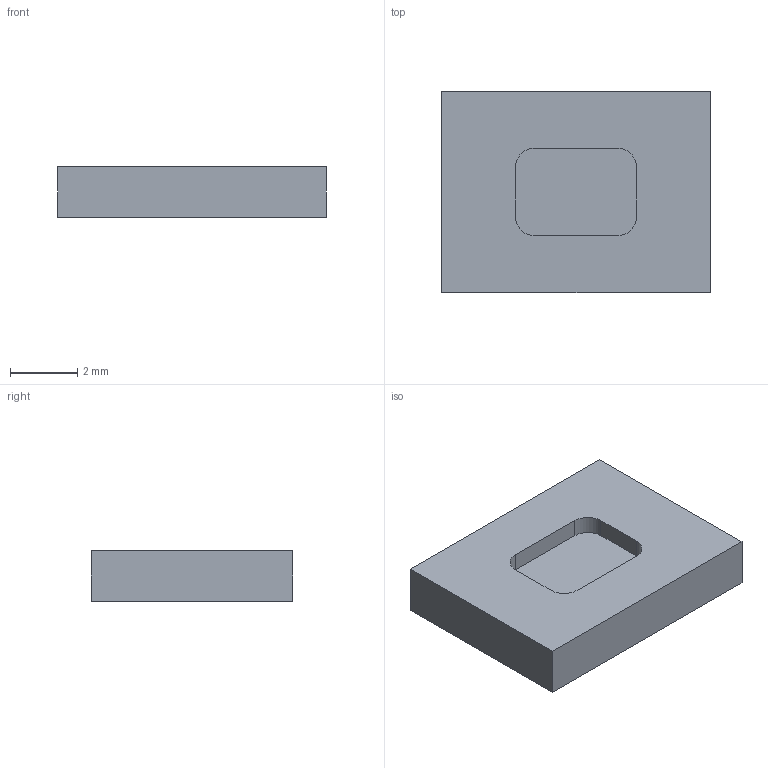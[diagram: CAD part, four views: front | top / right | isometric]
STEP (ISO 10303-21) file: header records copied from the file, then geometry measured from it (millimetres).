
FILE_DESCRIPTION(('FreeCAD Model'),'2;1');
FILE_NAME('Open CASCADE Shape Model','2026-11-02T20:21:27',('FreeCAD'),( 'FreeCAD'),'Open CASCADE STEP processor 7.8','FreeCAD','Unknown');
FILE_SCHEMA(('AUTOMOTIVE_DESIGN { 1 0 10303 214 1 1 1 1 }'));
Length unit declared in the file: millimetre
Products named in the file (1): Open CASCADE STEP translator 7.8 6
Bounding box: 8 x 6 x 1.5 mm (x, y, z)
Volume: 67 mm3; surface area: 144.3 mm2
Topology: 1 solids, 1 shells, 15 faces, 36 edges, 24 vertices
Faces by surface type: plane 11, cylinder 4
Entity records: 448 total; most frequent: CARTESIAN_POINT 76, DIRECTION 76, ORIENTED_EDGE 72, EDGE_CURVE 36, LINE 28, VECTOR 28, AXIS2_PLACEMENT_3D 24, VERTEX_POINT 24
